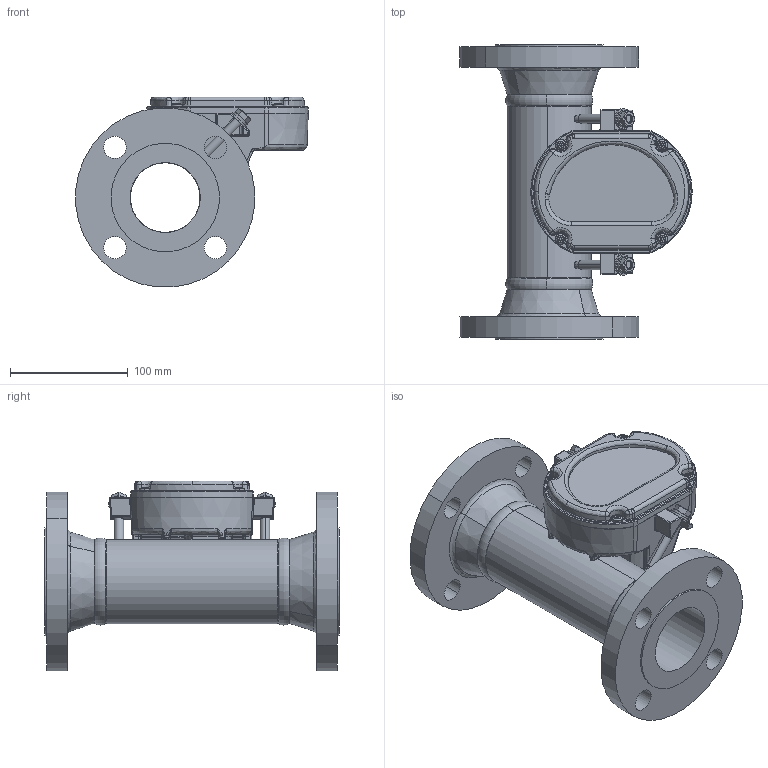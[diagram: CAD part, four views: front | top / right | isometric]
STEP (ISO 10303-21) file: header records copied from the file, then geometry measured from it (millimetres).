
FILE_DESCRIPTION (( 'STEP AP214' ), '1' );
FILE_NAME ('3809G-A-13-F-8-A-0.STEP', '2025-05-21T16:10:09', ( '' ), ( '' ), 'SwSTEP 2.0', 'SolidWorks 2023', '' );
FILE_SCHEMA (( 'AUTOMOTIVE_DESIGN' ));
Length unit declared in the file: millimetre
Products named in the file (1): 3809G-A-13-F-8-A-0
Bounding box: 197.38 x 250 x 161.25 mm (x, y, z)
Volume: 1270840.4 mm3; surface area: 314367.5 mm2
Topology: 17 solids, 19 shells, 1550 faces, 3801 edges, 2262 vertices
Faces by surface type: cylinder 577, bspline 514, cone 219, plane 216, torus 24
Entity records: 94433 total; most frequent: CARTESIAN_POINT 61338, ORIENTED_EDGE 7490, DIRECTION 6170, EDGE_CURVE 3745, AXIS2_PLACEMENT_3D 2490, VERTEX_POINT 2262, EDGE_LOOP 1635, ADVANCED_FACE 1550
